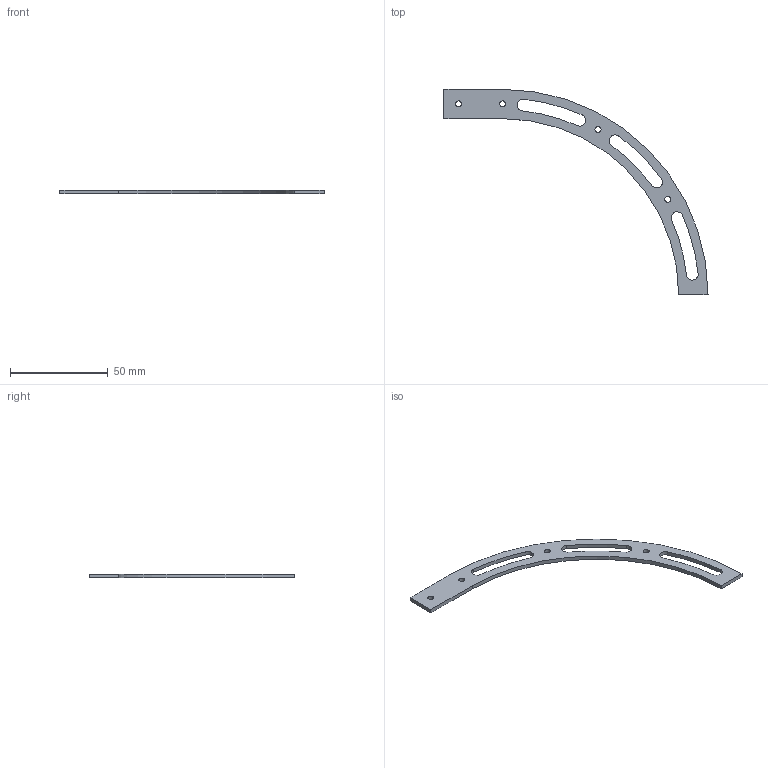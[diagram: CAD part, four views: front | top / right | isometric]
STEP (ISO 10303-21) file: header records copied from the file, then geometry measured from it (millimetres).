
FILE_DESCRIPTION (( 'STEP AP203' ), '1' );
FILE_NAME ('碳板-腰部悬臂加强件-1.STEP', '2026-07-29T04:14:19', ( '' ), ( '' ), 'SwSTEP 2.0', 'SolidWorks 2025', '' );
FILE_SCHEMA (( 'CONFIG_CONTROL_DESIGN' ));
Length unit declared in the file: millimetre
Products named in the file (1): 碳板-腰部悬臂加强件-1
Bounding box: 135 x 105 x 2 mm (x, y, z)
Volume: 4183.5 mm3; surface area: 5527.5 mm2
Topology: 1 solids, 1 shells, 31 faces, 87 edges, 58 vertices
Faces by surface type: cylinder 25, plane 6
Entity records: 1136 total; most frequent: DIRECTION 201, CARTESIAN_POINT 177, ORIENTED_EDGE 174, EDGE_CURVE 87, AXIS2_PLACEMENT_3D 82, VERTEX_POINT 58, CIRCLE 50, EDGE_LOOP 45
